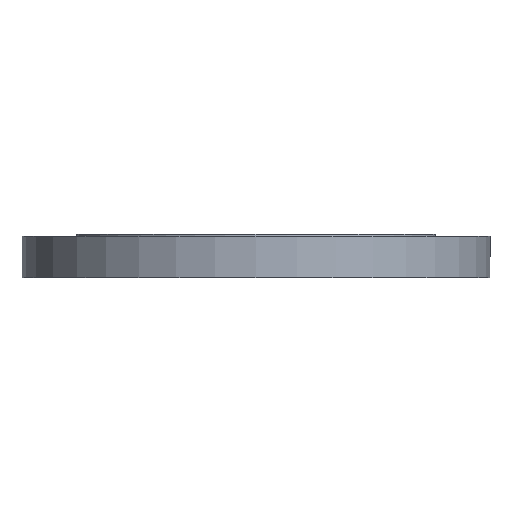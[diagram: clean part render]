
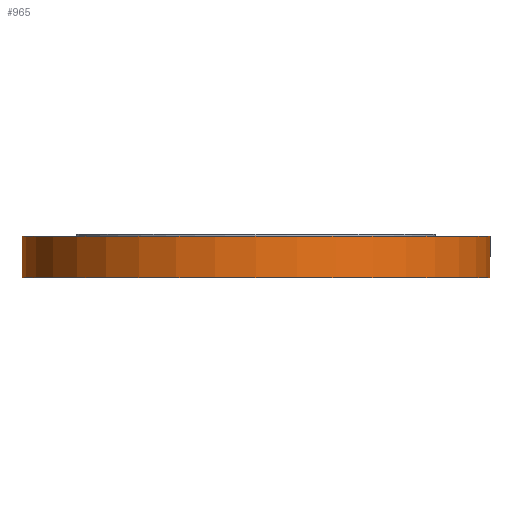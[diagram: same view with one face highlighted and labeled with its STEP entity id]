
A CAD part, front view. The second image highlights one B-rep face of the part: STEP entity #965.
In plain terms, the highlighted cylindrical face has radius 225 mm (diameter 450 mm), a partial arc.
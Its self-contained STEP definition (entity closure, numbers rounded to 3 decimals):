
#71 = DIRECTION ( 'NONE',  ( 0., 0., 1. ) ) ;
#72 = CARTESIAN_POINT ( 'NONE',  ( -225., 0., -115. ) ) ;
#73 = LINE ( 'NONE', #72, #382 ) ;
#88 = CIRCLE ( 'NONE', #185, 225. ) ;
#107 = CARTESIAN_POINT ( 'NONE',  ( 225., 0., -2. ) ) ;
#108 = CARTESIAN_POINT ( 'NONE',  ( -225., 0., -42. ) ) ;
#120 = DIRECTION ( 'NONE',  ( 1., 0., 0. ) ) ;
#121 = DIRECTION ( 'NONE',  ( 0., 0., 1. ) ) ;
#122 = CARTESIAN_POINT ( 'NONE',  ( 0., 0., -115. ) ) ;
#123 = CYLINDRICAL_SURFACE ( 'NONE', #1140, 225. ) ;
#124 = FACE_OUTER_BOUND ( 'NONE', #1103, .T. ) ;
#185 = AXIS2_PLACEMENT_3D ( 'NONE', #1088, #1087, #1085 ) ;
#311 = CARTESIAN_POINT ( 'NONE',  ( -225., 0., -2. ) ) ;
#320 = CARTESIAN_POINT ( 'NONE',  ( 225., 0., -42. ) ) ;
#382 = VECTOR ( 'NONE', #71, 1000. ) ;
#417 = DIRECTION ( 'NONE',  ( 0., 0., 1. ) ) ;
#418 = CARTESIAN_POINT ( 'NONE',  ( 225., 0., -115. ) ) ;
#419 = LINE ( 'NONE', #418, #495 ) ;
#495 = VECTOR ( 'NONE', #417, 1000. ) ;
#699 = EDGE_CURVE ( 'NONE', #775, #989, #419, .T. ) ;
#775 = VERTEX_POINT ( 'NONE', #320 ) ;
#793 = VERTEX_POINT ( 'NONE', #311 ) ;
#860 = AXIS2_PLACEMENT_3D ( 'NONE', #1143, #1145, #1018 ) ;
#965 = ADVANCED_FACE ( 'NONE', ( #124 ), #123, .T. ) ;
#987 = VERTEX_POINT ( 'NONE', #108 ) ;
#989 = VERTEX_POINT ( 'NONE', #107 ) ;
#1006 = CIRCLE ( 'NONE', #860, 225. ) ;
#1017 = EDGE_CURVE ( 'NONE', #987, #793, #73, .T. ) ;
#1018 = DIRECTION ( 'NONE',  ( -1., 0., 0. ) ) ;
#1083 = EDGE_CURVE ( 'NONE', #989, #793, #1006, .T. ) ;
#1085 = DIRECTION ( 'NONE',  ( -1., 0., 0. ) ) ;
#1087 = DIRECTION ( 'NONE',  ( 0., 0., -1. ) ) ;
#1088 = CARTESIAN_POINT ( 'NONE',  ( 0., 0., -42. ) ) ;
#1103 = EDGE_LOOP ( 'NONE', ( #1237, #1238, #1239, #1241 ) ) ;
#1118 = EDGE_CURVE ( 'NONE', #775, #987, #88, .T. ) ;
#1140 = AXIS2_PLACEMENT_3D ( 'NONE', #122, #121, #120 ) ;
#1143 = CARTESIAN_POINT ( 'NONE',  ( 0., 0., -2. ) ) ;
#1145 = DIRECTION ( 'NONE',  ( 0., 0., -1. ) ) ;
#1237 = ORIENTED_EDGE ( 'NONE', *, *, #1017, .F. ) ;
#1238 = ORIENTED_EDGE ( 'NONE', *, *, #1118, .F. ) ;
#1239 = ORIENTED_EDGE ( 'NONE', *, *, #699, .T. ) ;
#1241 = ORIENTED_EDGE ( 'NONE', *, *, #1083, .T. ) ;
